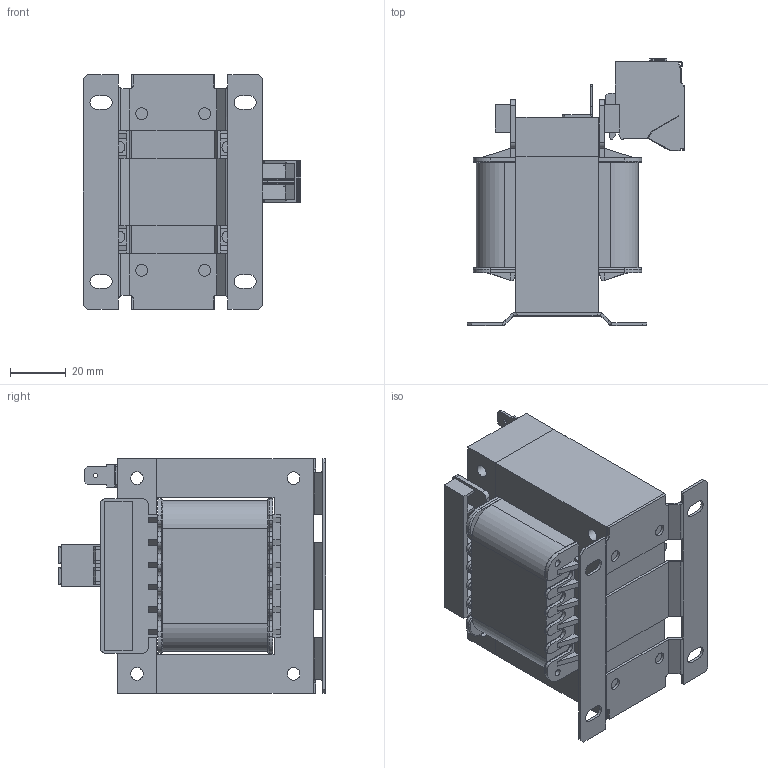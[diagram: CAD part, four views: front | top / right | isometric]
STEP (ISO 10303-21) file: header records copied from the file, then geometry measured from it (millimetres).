
FILE_DESCRIPTION (( 'STEP AP214' ), '1' );
FILE_NAME ('PMO-016.STEP', '2015-04-28T11:53:25', ( 'EDV' ), ( 'Microsoft' ), 'SwSTEP 2.0', 'SolidWorks 2014', '' );
FILE_SCHEMA (( 'AUTOMOTIVE_DESIGN' ));
Length unit declared in the file: millimetre
Products named in the file (7): +2220-0010; BTK 4_2F orange +2202-0016; Fussplatte EI84-29; Wickel EI84_29,5-1MS; EI84-29,5-1MS; EI84-29,5; PMO-016
Assembly tree (6 placements, depth 2):
  PMO-016
    EI84-29,5
    EI84-29,5-1MS
    Wickel EI84_29,5-1MS
    Fussplatte EI84-29
    BTK 4_2F orange +2202-0016
    +2220-0010
Bounding box: 77.65 x 95.66 x 84 mm (x, y, z)
Volume: 246738.3 mm3; surface area: 90576.6 mm2
Topology: 7 solids, 7 shells, 2628 faces, 7208 edges, 4642 vertices
Faces by surface type: plane 2002, cylinder 403, bspline 115, torus 108
Full cylindrical faces by diameter (mm): 1.5 x1, 2.5 x4, 3.242 x1, 4.2 x4, 4.5 x4, 4.805 x1, 5.205 x1
Entity records: 87022 total; most frequent: CARTESIAN_POINT 19941, ORIENTED_EDGE 14372, DIRECTION 12705, EDGE_CURVE 7186, VECTOR 5975, LINE 5975, VERTEX_POINT 4642, AXIS2_PLACEMENT_3D 3365
